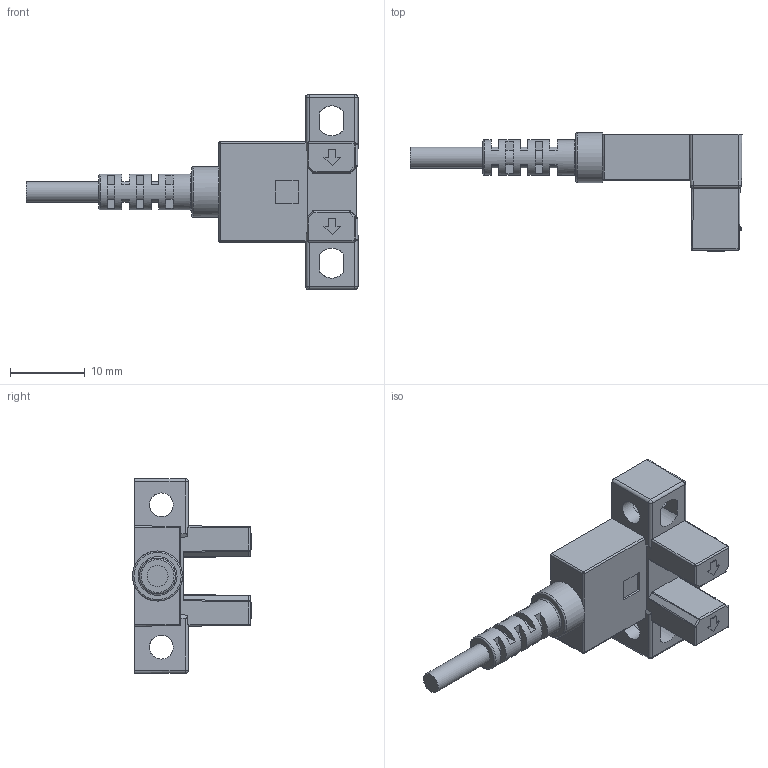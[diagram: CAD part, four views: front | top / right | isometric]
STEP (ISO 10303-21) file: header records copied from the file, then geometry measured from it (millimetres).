
FILE_DESCRIPTION(/* description */ (''),/* implementation_level */ '2;1');
FILE_NAME(/* name */ 'F:\HUAYIFENG\02)HUAYIFENG_3D_MODE\HUAYIFENG_3D_MODE_\X2\69FD578B51497535\X0\\HUAYIFENG_3D_MODE_槽型光电_LU67X\X2\7CFB5217\X0\\槽型光电_LU67系列_销售用\LU671\LU671.stp',/* time_stamp */ '2017-11-28T14:50:03+08:00',/* author */ ('fengjiarun'),/* organization */ (''),/* preprocessor_version */ 'ST-DEVELOPER v16.5',/* originating_system */ 'Autodesk Inventor 2017',/* authorisation */ '');
FILE_SCHEMA (('AUTOMOTIVE_DESIGN { 1 0 10303 214 3 1 1 }'));
Length unit declared in the file: millimetre
Products named in the file (1): 零件22
Bounding box: 44.35 x 15.9 x 26.1 mm (x, y, z)
Volume: 1649 mm3; surface area: 3262.4 mm2
Topology: 1 solids, 3 shells, 221 faces, 558 edges, 343 vertices
Faces by surface type: plane 126, cylinder 65, sphere 18, bspline 6, torus 5, cone 1
Full cylindrical faces by diameter (mm): 2.8 x2, 3.2 x4, 4.8 x1, 6.7 x1
Entity records: 6630 total; most frequent: CARTESIAN_POINT 1311, DIRECTION 1117, ORIENTED_EDGE 1048, EDGE_CURVE 523, AXIS2_PLACEMENT_3D 392, VERTEX_POINT 334, LINE 333, VECTOR 333
